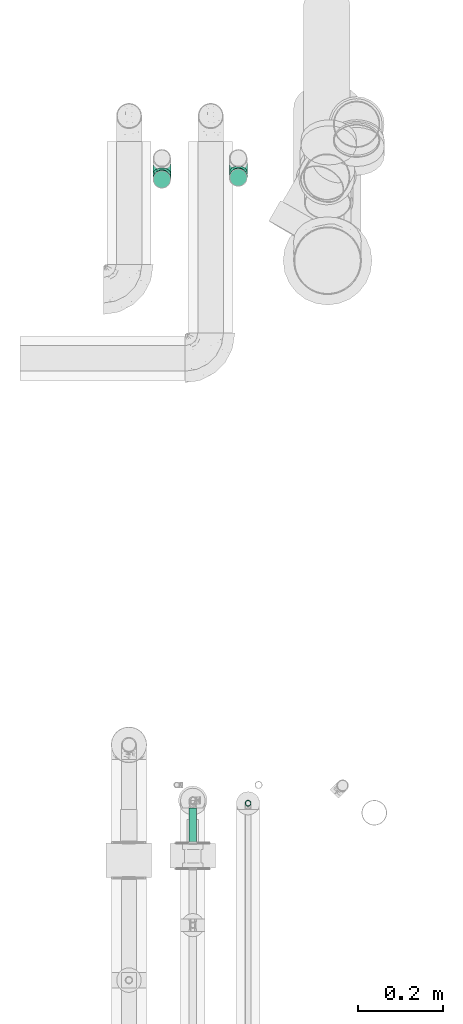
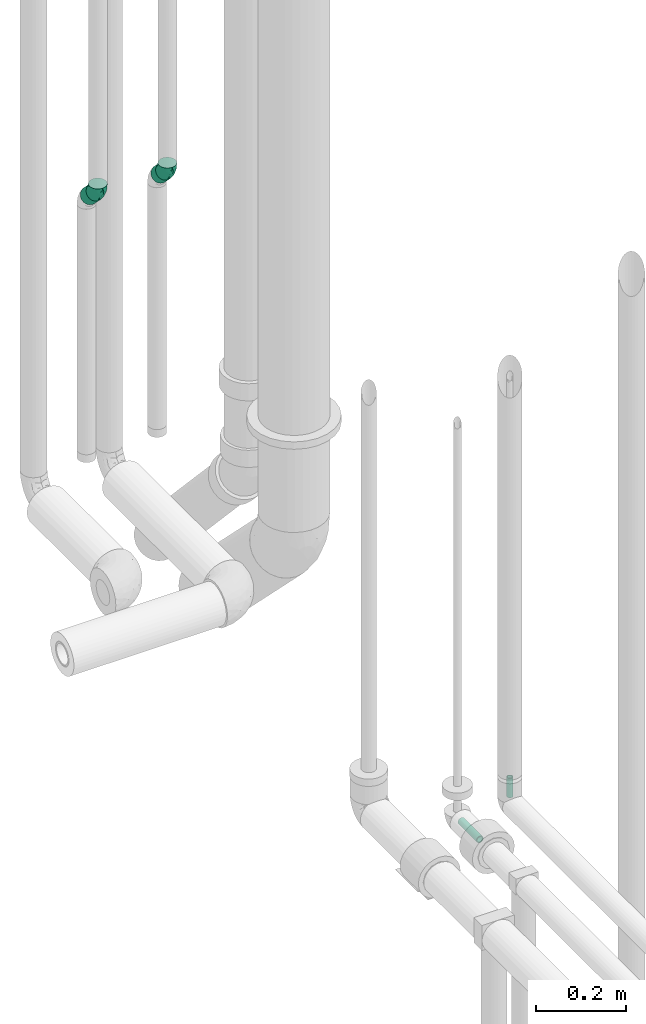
# One storey, part 42 of 78: 4 flow segments, 2 flow fittings.
"""IFC2X3 building model written with IfcOpenShell, lengths in millimetres."""

from ifc_helpers import new_model, entity, si_unit, converted_unit, derived_unit, direction, frame, origin_with_axes, origin_2d_with_axis, place, context, subcontext, project, spatial, hollow_circle, extrude, open_shell, surface_model, source, transform, mapped, type_object, element, save


model = new_model("IFC2X3")

# Units and contexts
model_context = context("Model", 3, precision=0.01, world=frame((0.0, 4.29681676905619e-09, 0.0)), true_north=direction((4.01073788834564e-13, 1.0)))
plan_context = context("Plan", 3, precision=0.01, world=frame((0.0, 4.29681676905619e-09, 0.0)), true_north=direction((4.01073788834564e-13, 1.0)))
body_context = subcontext(model_context, "Body", "Model", "MODEL_VIEW")
ifc_project = project(units=[converted_unit("PLANEANGLEUNIT", "DEGREE", entity("IfcPositiveLengthMeasure", 0.0174532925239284), si_unit("PLANEANGLEUNIT", "RADIAN"), dimensions=[0, 0, 0, 0, 0, 0, 0]), si_unit("AREAUNIT", "SQUARE_METRE"), si_unit("LENGTHUNIT", "METRE", prefix="MILLI"), si_unit("MASSUNIT", "GRAM", prefix="KILO"), si_unit("POWERUNIT", "WATT"), si_unit("PRESSUREUNIT", "PASCAL"), si_unit("FORCEUNIT", "NEWTON", prefix="KILO"), si_unit("ELECTRICVOLTAGEUNIT", "VOLT"), si_unit("ELECTRICCURRENTUNIT", "AMPERE"), si_unit("THERMODYNAMICTEMPERATUREUNIT", "DEGREE_CELSIUS"), si_unit("TIMEUNIT", "SECOND"), si_unit("VOLUMEUNIT", "CUBIC_METRE"), derived_unit("LINEARVELOCITYUNIT", [(si_unit("LENGTHUNIT", "METRE"), 1), (si_unit("TIMEUNIT", "SECOND"), -1)]), derived_unit("VOLUMETRICFLOWRATEUNIT", [(si_unit("VOLUMEUNIT", "CUBIC_METRE"), 1), (si_unit("TIMEUNIT", "SECOND"), -1)]), derived_unit("THERMALTRANSMITTANCEUNIT", [(si_unit("POWERUNIT", "WATT"), 1), (si_unit("THERMODYNAMICTEMPERATUREUNIT", "KELVIN"), -1), (si_unit("AREAUNIT", "SQUARE_METRE"), -1)]), derived_unit("SOUNDPRESSUREUNIT", [(si_unit("PRESSUREUNIT", "PASCAL"), 1)])], contexts=[model_context, plan_context])

# Site, building, storey
site_placement = place(None, frame((0.0, -4.29681676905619e-09, 0.0), z_axis=(0.0, 0.0, 1.0), x_axis=(1.0, 0.0, 0.0)))
site = spatial("IfcSite", under=ifc_project, at=site_placement, Name="ENGM", CompositionType="ELEMENT")
building_placement = place(site_placement, frame((0.0, 4.29681676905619e-09, 0.0), z_axis=(0.0, 0.0, 1.0), x_axis=(1.0, 0.0, 0.0)))
building = spatial("IfcBuilding", under=site, at=building_placement, Name="TH", CompositionType="ELEMENT")
storey_placement = place(building_placement, frame((0.0, 0.0, 205200.0), z_axis=(0.0, 0.0, 1.0), x_axis=(1.0, 0.0, 0.0)))
storey = spatial("IfcBuildingStorey", under=building, at=storey_placement, Name="Nivå D + 1,2 m", CompositionType="ELEMENT", Elevation=205200.0)

# Flow fittings
pipe_fitting_type = type_object("IfcPipeFittingType", Name="magi_pipe_fe_elbow_short_001", PredefinedType="BEND")
shared_shape_1 = source(origin_with_axes(), body_context, "Body", "SurfaceModel", [
    surface_model("IfcShellBasedSurfaceModel", [(-17.56266, 10.6, -18.35974), (-17.56266, 5.48696, -20.47763), (-17.56266, 0.0, -21.2), (-17.56266, 14.99066, -14.99066), (-17.56266, 20.47763, -5.48696), (-17.56266, 18.35974, -10.6), (-17.56266, -14.99066, 14.99066), (-17.56266, -21.2, 0.0), (-17.56266, -10.6, -18.35974), (-17.56266, -14.99066, -14.99066), (-17.56266, -5.48696, -20.47763), (-17.56266, -20.47763, -5.48696), (-17.56266, -18.35974, -10.6), (-17.56266, 10.6, 18.35974), (-17.56266, 20.47763, 5.48696), (-17.56266, 18.35974, 10.6), (-17.56266, 14.99066, 14.99066), (-17.56266, 0.0, 21.2), (-17.56266, 5.48696, 20.47763), (-17.56266, -20.47763, 5.48696), (-17.56266, -18.35974, 10.6), (-17.56266, -10.6, 18.35974), (-17.56266, -5.48696, 20.47763), (-17.56266, 21.2, 0.0), (12.41867, 12.41867, -21.2), (8.5388, 16.29854, -20.47763), (4.92334, 19.91401, -18.35974), (1.81867, 23.01867, -14.99066), (-0.56362, 25.40097, -10.6), (-2.0612, 26.89854, -5.48696), (23.01867, 1.81867, -14.99066), (16.29854, 8.5388, -20.47763), (19.91401, 4.92334, -18.35974), (25.40097, -0.56362, -10.6), (27.40934, -2.57199, 0.0), (26.89854, -2.0612, -5.48696), (23.01867, 1.81867, 14.99066), (-2.0612, 26.89854, 5.48696), (4.92334, 19.91401, 18.35974), (-0.56362, 25.40097, 10.6), (12.41867, 12.41867, 21.2), (1.81867, 23.01867, 14.99066), (8.5388, 16.29854, 20.47763), (25.40097, -0.56362, 10.6), (26.89854, -2.0612, 5.48696), (19.91401, 4.92334, 18.35974), (16.29854, 8.5388, 20.47763), (-2.57199, 27.40934, 0.0), (-8.40024, -7.77386, 19.37571), (-4.69017, -11.98175, 16.35875), (2.17676, -5.25517, 19.10859), (-6.84574, -16.21398, 12.41342), (16.30569, -6.62435, 12.41342), (-6.32725, -2.04119, 20.91914), (-8.14571, 8.8219, 19.81901), (-2.01641, 4.86804, 21.1255), (-10.62217, 2.93771, 21.07135), (0.62927, 12.74499, 19.78718), (3.83247, 10.03513, 20.89165), (5.39951, -13.03557, 11.81412), (11.43682, 0.44291, 19.37571), (-8.73345, 21.08441, 8.70987), (-9.34914, 17.77933, 13.37863), (-6.0219, 14.53816, 17.30779), (1.82504, -17.82225, 3.74766), (9.69168, -14.69469, 3.74766), (6.26896, -15.1346, 7.37727), (-5.39332, -18.77937, 0.0), (-5.97409, -19.77446, 3.86222), (20.4312, -8.10976, 4.0775), (15.65707, -10.28132, 7.36222), (-8.49154, 22.7164, 4.45437), (-3.80123, -18.34121, 7.36222), (5.91738, 3.0307, 20.91914), (11.78883, -5.15593, 16.35875), (6.77601, -16.35874, 0.0), (17.09267, -9.46536, 0.0), (-9.44977, 22.81375, 0.0), (3.55838, -8.59068, 16.90582), (-6.32725, -2.04119, -20.91914), (11.31173, -13.89274, -3.74766), (3.53767, -17.24376, -3.74766), (6.26896, -15.1346, -7.37727), (5.91738, 3.0307, -20.91914), (-9.45703, 8.56711, -19.78718), (-9.80587, 4.38594, -20.89165), (-5.96104, 19.18272, -13.37863), (11.78883, -5.15593, -16.35875), (-8.73345, 21.08441, -8.70987), (15.65707, -10.28132, -7.36222), (-10.05849, 22.06734, -4.45437), (-0.47814, 11.99791, -19.81901), (-8.71257, -20.1815, -4.0775), (-3.80123, -18.34121, -7.36222), (5.39951, -13.03557, -11.81412), (16.30569, -6.62435, -12.41342), (-6.84574, -16.21398, -12.41342), (-4.69017, -11.98175, -16.35875), (3.55838, -8.59068, -16.90582), (-8.40024, -7.77386, -19.37571), (2.17676, -5.25517, -19.10859), (11.43682, 0.44291, -19.37571), (-2.01641, 4.86804, -21.1255), (-6.0219, 14.53816, -17.3078), (18.20697, -9.75834, -3.86222), (5.43374, 9.58829, -21.07135)], [open_shell([[[0, 1, 2]], [[3, 0, 2]], [[4, 5, 3]], [[2, 4, 3]], [[6, 2, 7]], [[8, 9, 10]], [[9, 2, 10]], [[11, 7, 12]], [[12, 2, 9]], [[12, 7, 2]], [[6, 4, 2]], [[13, 14, 4]], [[15, 14, 16]], [[13, 4, 6]], [[16, 14, 13]], [[13, 17, 18]], [[19, 20, 7]], [[7, 20, 6]], [[21, 22, 6]], [[17, 6, 22]], [[6, 17, 13]], [[23, 4, 14]], [[24, 25, 26]], [[24, 26, 27]], [[27, 28, 29]], [[27, 29, 24]], [[24, 29, 30]], [[31, 30, 32]], [[31, 24, 30]], [[33, 34, 35]], [[34, 33, 30]], [[29, 34, 30]], [[29, 36, 34]], [[29, 37, 38]], [[38, 37, 39]], [[29, 38, 40]], [[38, 39, 41]], [[40, 38, 42]], [[36, 43, 34]], [[44, 34, 43]], [[45, 40, 46]], [[40, 45, 36]], [[36, 29, 40]], [[37, 29, 47]], [[48, 49, 50]], [[6, 51, 49]], [[21, 6, 49]], [[43, 36, 52]], [[17, 22, 53]], [[22, 21, 48]], [[13, 18, 54]], [[55, 56, 53]], [[17, 56, 18]], [[42, 57, 58]], [[49, 51, 59]], [[45, 46, 60]], [[61, 15, 62]], [[63, 16, 13]], [[64, 65, 66]], [[67, 64, 68]], [[69, 44, 70]], [[61, 71, 14]], [[20, 19, 72]], [[23, 14, 71]], [[14, 15, 61]], [[6, 20, 51]], [[54, 63, 13]], [[72, 66, 59]], [[7, 67, 68]], [[38, 41, 63]], [[40, 58, 73]], [[36, 45, 74]], [[39, 37, 61]], [[73, 46, 40]], [[64, 67, 75]], [[36, 74, 52]], [[55, 58, 57]], [[74, 45, 60]], [[20, 72, 51]], [[76, 69, 65]], [[44, 69, 34]], [[56, 54, 18]], [[71, 61, 37]], [[77, 71, 47]], [[52, 59, 70]], [[49, 78, 50]], [[50, 73, 53]], [[42, 38, 57]], [[50, 60, 73]], [[61, 62, 39]], [[55, 53, 73]], [[41, 39, 62]], [[63, 54, 57]], [[48, 53, 22]], [[15, 16, 62]], [[44, 43, 70]], [[59, 51, 72]], [[78, 59, 74]], [[59, 52, 74]], [[70, 43, 52]], [[16, 63, 62]], [[41, 62, 63]], [[63, 57, 38]], [[55, 57, 54]], [[49, 48, 21]], [[53, 48, 50]], [[73, 60, 46]], [[74, 60, 50]], [[73, 58, 55]], [[40, 42, 58]], [[53, 56, 17]], [[54, 56, 55]], [[64, 66, 72]], [[70, 59, 66]], [[64, 72, 68]], [[65, 64, 75]], [[76, 65, 75]], [[70, 66, 65]], [[72, 19, 68]], [[7, 68, 19]], [[59, 78, 49]], [[74, 50, 78]], [[47, 71, 37]], [[71, 77, 23]], [[65, 69, 70]], [[34, 69, 76]], [[10, 2, 79]], [[80, 81, 82]], [[24, 31, 83]], [[84, 85, 1]], [[5, 86, 3]], [[32, 30, 87]], [[88, 86, 5]], [[33, 35, 89]], [[4, 90, 88]], [[26, 25, 91]], [[92, 11, 93]], [[0, 84, 1]], [[67, 92, 81]], [[94, 95, 89]], [[11, 92, 7]], [[96, 9, 97]], [[9, 8, 97]], [[98, 94, 97]], [[11, 12, 93]], [[9, 96, 12]], [[99, 8, 10]], [[96, 94, 93]], [[100, 79, 83]], [[101, 83, 31]], [[23, 77, 90]], [[80, 76, 75]], [[47, 29, 90]], [[102, 83, 79]], [[27, 26, 103]], [[88, 5, 4]], [[28, 86, 88]], [[99, 97, 8]], [[91, 103, 26]], [[85, 79, 2]], [[103, 91, 84]], [[3, 103, 0]], [[76, 80, 104]], [[24, 105, 25]], [[101, 31, 32]], [[89, 82, 94]], [[30, 33, 95]], [[87, 100, 101]], [[87, 95, 94]], [[100, 99, 79]], [[34, 76, 104]], [[28, 27, 86]], [[105, 91, 25]], [[95, 87, 30]], [[87, 98, 100]], [[105, 83, 102]], [[102, 85, 84]], [[29, 88, 90]], [[33, 89, 95]], [[29, 28, 88]], [[94, 96, 97]], [[93, 12, 96]], [[27, 103, 86]], [[3, 86, 103]], [[103, 84, 0]], [[102, 84, 91]], [[79, 99, 10]], [[97, 99, 100]], [[87, 101, 32]], [[83, 101, 100]], [[79, 85, 102]], [[2, 1, 85]], [[83, 105, 24]], [[91, 105, 102]], [[80, 82, 89]], [[93, 94, 82]], [[80, 89, 104]], [[81, 80, 75]], [[67, 81, 75]], [[93, 82, 81]], [[89, 35, 104]], [[34, 104, 35]], [[94, 98, 87]], [[97, 100, 98]], [[23, 90, 4]], [[90, 77, 47]], [[81, 92, 93]], [[7, 92, 67]]])]),
])
for number, where, z_axis, x_axis, name in (
    (1, (895447.40675, 480017.46747, 5282.78315), (1.0, 0.0, 0.0), (0.0, 3.999999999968e-06, -0.999999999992), "magi_pipe_fe_elbow_short_001"),
    (2, (895628.1602, 480021.92131, 5273.32931999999), (1.0, 0.0, 0.0), (0.0, 3.999999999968e-06, -0.999999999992), "magi_pipe_fe_elbow_short_001"),
):
    element("IfcFlowFitting", number, at=place(storey_placement, frame(where, z_axis=z_axis, x_axis=x_axis)), inside=storey, type_object=pipe_fitting_type, Name=name, context=body_context, shape_type="MappedRepresentation", body=[
        mapped(shared_shape_1, transform((0.0, 0.0, 0.0), scale=1.0)),
    ])

# Flow segments
pipe_segment_type_1 = type_object("IfcPipeSegmentType", Name="Kobberrør", PredefinedType="RIGIDSEGMENT")
shared_shape_2 = source(origin_with_axes(), body_context, "Body", "SweptSolid", [
    extrude(hollow_circle(Radius=7.5, WallThickness=2.0, at=origin_2d_with_axis()), frame((0.0, 0.0, 0.0), z_axis=(1.0, 0.0, 0.0), x_axis=(0.0, 1.0, 0.0)), (0.0, 0.0, 1.0), 52.1),
])
flow_segment_1_placement = place(storey_placement, frame((895651.15, 478542.5375, 4517.13214999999), z_axis=(1.0, 0.0, 0.0), x_axis=(0.0, 3.999999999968e-06, -0.999999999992)))
element("IfcFlowSegment", 3, at=flow_segment_1_placement, inside=storey, type_object=pipe_segment_type_1, Name="Kobberrør", context=body_context, shape_type="MappedRepresentation", body=[
    mapped(shared_shape_2, transform((0.0, 0.0, 0.0), scale=1.0)),
])
shared_shape_3 = source(origin_with_axes(), body_context, "Body", "SweptSolid", [
    extrude(hollow_circle(Radius=9.0, WallThickness=2.0, at=origin_2d_with_axis()), frame((0.0, 0.0, 0.0), z_axis=(1.0, 0.0, 0.0), x_axis=(0.0, 1.0, 0.0)), (0.0, 0.0, 1.0), 82.3),
])
flow_segment_2_placement = place(storey_placement, frame((895520.48466, 478448.98509, 4450.0), z_axis=(0.0, 0.0, 1.0), x_axis=(0.0, 1.0, 0.0)))
element("IfcFlowSegment", 4, at=flow_segment_2_placement, inside=storey, type_object=pipe_segment_type_1, Name="Kobberrør", context=body_context, shape_type="MappedRepresentation", body=[
    mapped(shared_shape_3, transform((0.0, 0.0, 0.0), scale=1.0)),
])
pipe_segment_type_2 = type_object("IfcPipeSegmentType", Name="Stålrør normaltykke", PredefinedType="RIGIDSEGMENT")
shared_shape_4 = source(origin_with_axes(), body_context, "Body", "SweptSolid", [
    extrude(hollow_circle(Radius=21.2, WallThickness=2.0, at=origin_2d_with_axis()), frame((0.0, 0.0, 0.0), z_axis=(1.0, 0.0, 0.0), x_axis=(0.0, 1.0, 0.0)), (0.0, 0.0, 1.0), 36.1),
])
flow_segment_3_placement = place(storey_placement, frame((895447.40675, 480055.43196, 5244.81867000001), z_axis=(0.0, 0.707106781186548, 0.707106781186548), x_axis=(0.0, -0.707106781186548, 0.707106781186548)))
element("IfcFlowSegment", 5, at=flow_segment_3_placement, inside=storey, type_object=pipe_segment_type_2, Name="Stålrør normaltykke", context=body_context, shape_type="MappedRepresentation", body=[
    mapped(shared_shape_4, transform((0.0, 0.0, 0.0), scale=1.0)),
])
shared_shape_5 = source(origin_with_axes(), body_context, "Body", "SweptSolid", [
    extrude(hollow_circle(Radius=21.2, WallThickness=2.0, at=origin_2d_with_axis()), frame((0.0, 0.0, 0.0), z_axis=(1.0, 0.0, 0.0), x_axis=(0.0, 1.0, 0.0)), (0.0, 0.0, 1.0), 29.8),
])
flow_segment_4_placement = place(storey_placement, frame((895628.1602, 480055.43196, 5239.81867000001), z_axis=(0.0, 0.707106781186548, 0.707106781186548), x_axis=(0.0, -0.707106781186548, 0.707106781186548)))
element("IfcFlowSegment", 6, at=flow_segment_4_placement, inside=storey, type_object=pipe_segment_type_2, Name="Stålrør normaltykke", context=body_context, shape_type="MappedRepresentation", body=[
    mapped(shared_shape_5, transform((0.0, 0.0, 0.0), scale=1.0)),
])

save(model, "model.ifc")
